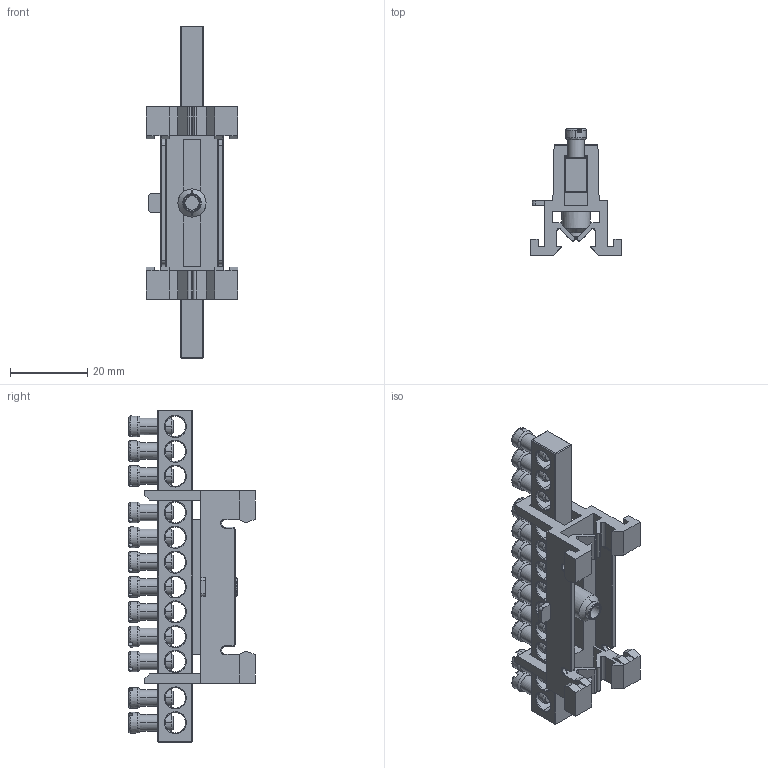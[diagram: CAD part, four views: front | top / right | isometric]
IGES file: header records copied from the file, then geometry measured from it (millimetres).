
Start section: SolidWorks IGES file using analytic representation for surfaces
Global section: file name: U:\14_RD\05_Technical_office\04_Office\Hrdinova\3D modely - IGES\Minia\CS-PE12.IGS; native system: SolidWorks 2011; preprocessor: SolidWorks 2011; author: adhrja3; date: 170615.073641; units: millimetre
Bounding box: 23.7 x 32.87 x 86.2 mm (x, y, z)
Surface area: 12014.7 mm2 (no closed solid volume)
Topology: 0 solids, 0 shells, 811 faces, 7232 edges, 7232 vertices
Faces by surface type: bspline 554, revolution 257
